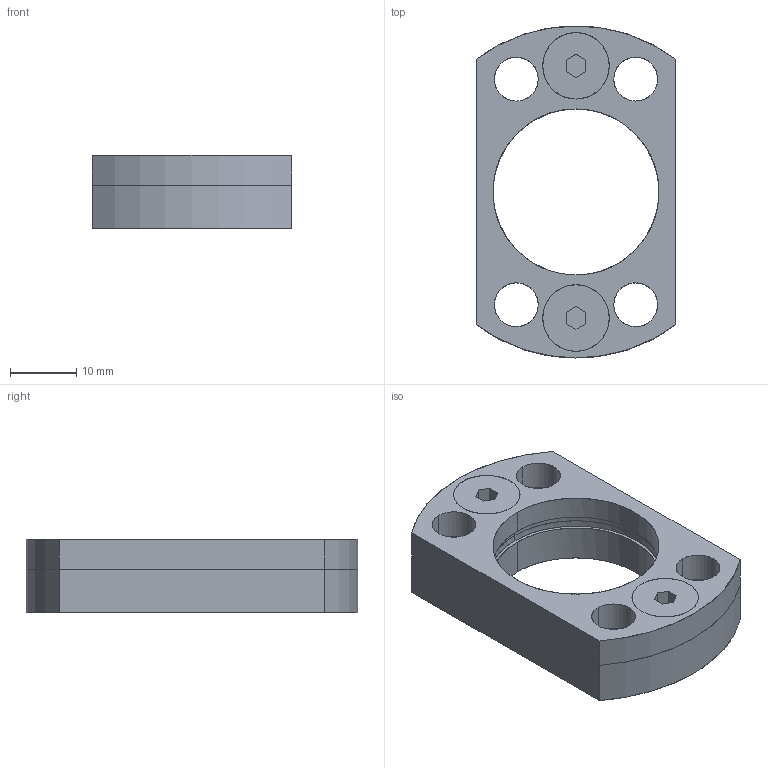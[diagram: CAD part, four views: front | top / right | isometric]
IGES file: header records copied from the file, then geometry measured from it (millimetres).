
Global section: file name: E:\UnigraphicsGraphicData\MISUMI_PRESS-PARTS\IGES\3d_fm-25_03755_r00.igs; native system: NX V5.0; preprocessor: UGS NX IGES V5.0; author: MISUMI; date: 20110105.160643; units: millimetre
Bounding box: 30 x 50 x 11 mm (x, y, z)
Surface area: 7304 mm2 (no closed solid volume)
Topology: 0 solids, 0 shells, 80 faces, 640 edges, 640 vertices
Faces by surface type: bspline 80
